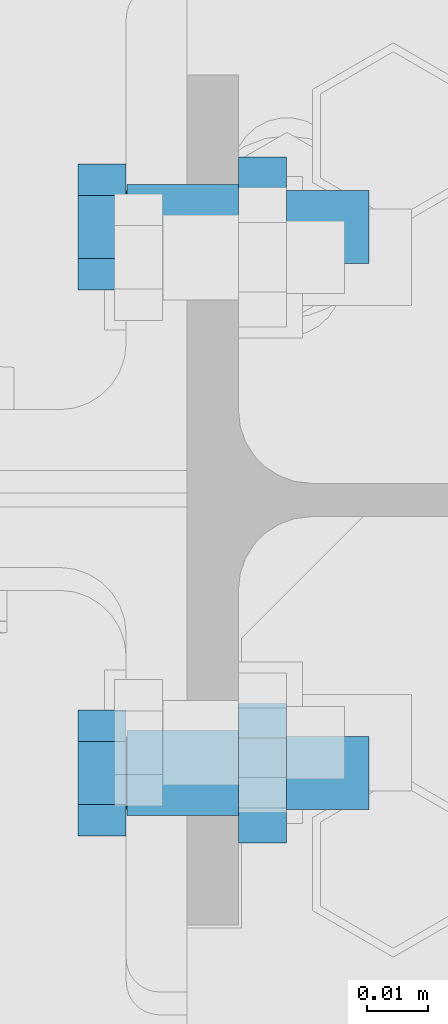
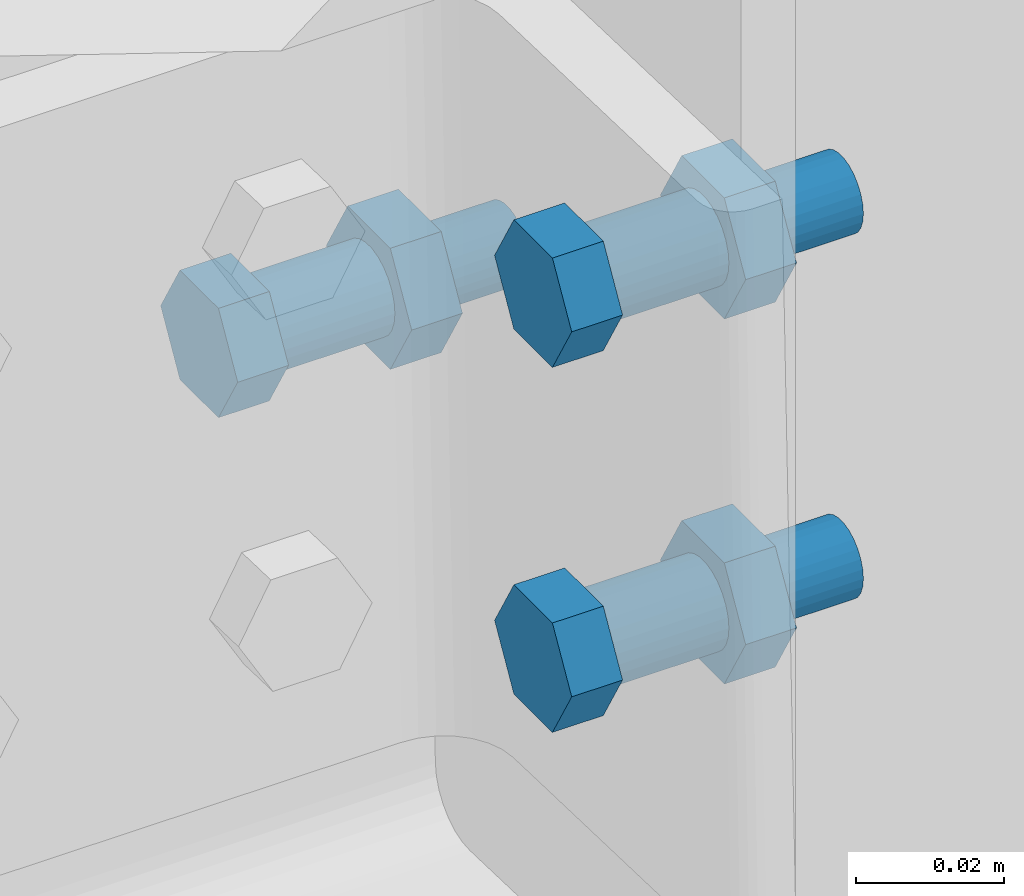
# One storey, part 289 of 362: 3 mechanical fasteners.
"""IFC2X3 building model written with IfcOpenShell, lengths in millimetres."""

import ifcopenshell
import ifcopenshell.guid

model = None  # the IFC model being written
_history = None  # IfcOwnerHistory: only IFC2X3 demands one
_inside = {}  # id of a spatial element -> (the spatial element, [elements in it])
_under = {}  # id of a project, library or spatial element -> (it, [spatial elements below it])
_declared = {}  # id of a project -> (the project, [libraries it declares])
_typed = {}  # id of a type object -> (the type object, [elements of that type])
_made_of = {}  # id of a material, layer set ... -> (it, [elements and type objects made of it])


def new_model(schema):
    """Start an empty IFC model of exactly this schema.

    Asked for "IFC4X3", IfcOpenShell would pick the latest addendum, in which some entities
    have other attributes; the version numbers below select the first issue.
    IFC2X3 requires an IfcOwnerHistory on every rooted entity: one is made here for all.
    """
    global model, _history
    if schema == "IFC4X3":
        model = ifcopenshell.file(schema_version=(4, 3, 0, 0))
    else:
        model = ifcopenshell.file(schema=schema)
    _inside.clear()
    _under.clear()
    _declared.clear()
    _typed.clear()
    _made_of.clear()
    _history = None
    if model.schema == "IFC2X3":
        org = make("IfcOrganization", Name="unknown")
        user = make(
            "IfcPersonAndOrganization",
            ThePerson=make("IfcPerson", FamilyName="unknown"),
            TheOrganization=org,
        )
        app = make(
            "IfcApplication",
            ApplicationDeveloper=org,
            Version="unknown",
            ApplicationFullName="unknown",
            ApplicationIdentifier="unknown",
        )
        _history = make(
            "IfcOwnerHistory",
            OwningUser=user,
            OwningApplication=app,
            ChangeAction="ADDED",
            CreationDate=0,
        )
    return model


def make(cls, **values):
    """One entity of the class cls with the attributes given. An attribute that is None is left unset."""
    return model.create_entity(
        cls, **{name: value for name, value in values.items() if value is not None}
    )


def rooted(cls, **values):
    """An entity with a GlobalId (a new one), such as an element, a storey or a relation."""
    return make(cls, GlobalId=ifcopenshell.guid.new(), OwnerHistory=_history, **values)


def si_unit(unit_type, name, prefix=None):
    """IfcSIUnit, for example si_unit("LENGTHUNIT", "METRE", prefix="MILLI")."""
    return make("IfcSIUnit", UnitType=unit_type, Prefix=prefix, Name=name)


def assignment(units):
    """IfcUnitAssignment: the units of a project."""
    return None if units is None else make("IfcUnitAssignment", Units=units)


def point(xyz):
    """IfcCartesianPoint."""
    return None if xyz is None else make("IfcCartesianPoint", Coordinates=xyz)


def direction(xyz):
    """IfcDirection."""
    return None if xyz is None else make("IfcDirection", DirectionRatios=xyz)


def frame(location, z_axis=None, x_axis=None):
    """IfcAxis2Placement3D, a coordinate frame: its origin and axes. An axis left out is left unset."""
    return make(
        "IfcAxis2Placement3D",
        Location=point(location),
        Axis=direction(z_axis),
        RefDirection=direction(x_axis),
    )


def frame_2d(location, x_axis=None):
    """IfcAxis2Placement2D, a coordinate frame in the plane: its origin and x axis."""
    return make(
        "IfcAxis2Placement2D", Location=point(location), RefDirection=direction(x_axis)
    )


def origin_with_axes():
    """The frame at (0, 0, 0) with the z axis (0, 0, 1) and the x axis (1, 0, 0) written out."""
    return frame((0.0, 0.0, 0.0), z_axis=(0.0, 0.0, 1.0), x_axis=(1.0, 0.0, 0.0))


def origin_2d_with_axis():
    """The frame at (0, 0) in the plane with the x axis (1, 0) written out."""
    return frame_2d((0.0, 0.0), x_axis=(1.0, 0.0))


def place(relative_to, where):
    """IfcLocalPlacement: puts the frame where relative to a parent placement (None: the world)."""
    return make(
        "IfcLocalPlacement", PlacementRelTo=relative_to, RelativePlacement=where
    )


def context(
    kind, dimensions, precision=None, world=None, true_north=None, identifier=None
):
    """IfcGeometricRepresentationContext, for example the 3D "Model" context."""
    return make(
        "IfcGeometricRepresentationContext",
        ContextIdentifier=identifier,
        ContextType=kind,
        CoordinateSpaceDimension=dimensions,
        Precision=precision,
        WorldCoordinateSystem=world,
        TrueNorth=true_north,
    )


def subcontext(parent, identifier, kind, view, scale=None):
    """IfcGeometricRepresentationSubContext, for example "Body" below "Model"."""
    return make(
        "IfcGeometricRepresentationSubContext",
        ContextIdentifier=identifier,
        ContextType=kind,
        ParentContext=parent,
        TargetScale=scale,
        TargetView=view,
    )


def project(units=None, contexts=None):
    """IfcProject with its units and contexts."""
    return rooted(
        "IfcProject",
        Name="project",
        RepresentationContexts=contexts,
        UnitsInContext=assignment(units),
    )


def spatial(cls, under=None, at=None, **own):
    """A site, building, storey or space (cls), placed at a placement, below another one or the project."""
    s = rooted(cls, ObjectPlacement=at, **own)
    if under is not None:
        _under.setdefault(under.id(), (under, []))[1].append(s)
    return s


def polyline(points):
    """IfcPolyline through the points."""
    return make("IfcPolyline", Points=[point(p) for p in points])


def profile(cls, at=None, kind="AREA", **sizes):
    """A parametric profile (cls). Its sizes go by their IFC names, for example OverallWidth=200.0."""
    return make(cls, ProfileType=kind, Position=at, **sizes)


def circle(**sizes):
    """IfcCircleProfileDef."""
    return profile("IfcCircleProfileDef", **sizes)


def outline(outer, holes=None, kind="AREA"):
    """IfcArbitraryClosedProfileDef: a profile drawn as a closed curve; with holes, ...WithVoids."""
    if holes is None:
        return make("IfcArbitraryClosedProfileDef", ProfileType=kind, OuterCurve=outer)
    return make(
        "IfcArbitraryProfileDefWithVoids",
        ProfileType=kind,
        OuterCurve=outer,
        InnerCurves=holes,
    )


def extrude(swept, where, along, depth):
    """IfcExtrudedAreaSolid: the profile swept, set in the frame where, extruded along a direction by depth."""
    return make(
        "IfcExtrudedAreaSolid",
        SweptArea=swept,
        Position=where,
        ExtrudedDirection=direction(along),
        Depth=depth,
    )


def shape(context_of_items, identifier, shape_type, items):
    """IfcShapeRepresentation: the items that make up one representation, for example the "Body"."""
    return make(
        "IfcShapeRepresentation",
        ContextOfItems=context_of_items,
        RepresentationIdentifier=identifier,
        RepresentationType=shape_type,
        Items=items,
    )


def source(mapping_origin, context_of_items, identifier, shape_type, items):
    """IfcRepresentationMap: a shape defined once, which mapped items show again and again."""
    return make(
        "IfcRepresentationMap",
        MappingOrigin=mapping_origin,
        MappedRepresentation=shape(context_of_items, identifier, shape_type, items),
    )


def transform(
    local_origin,
    x_axis=None,
    y_axis=None,
    z_axis=None,
    scale=None,
    scale2=None,
    scale3=None,
    uniform=True,
):
    """IfcCartesianTransformationOperator3D, or its non-uniform kind. x_axis, y_axis, z_axis: its Axis1, 2, 3."""
    if uniform:
        return make(
            "IfcCartesianTransformationOperator3D",
            Axis1=direction(x_axis),
            Axis2=direction(y_axis),
            LocalOrigin=point(local_origin),
            Scale=scale,
            Axis3=direction(z_axis),
        )
    return make(
        "IfcCartesianTransformationOperator3DnonUniform",
        Axis1=direction(x_axis),
        Axis2=direction(y_axis),
        LocalOrigin=point(local_origin),
        Scale=scale,
        Axis3=direction(z_axis),
        Scale2=scale2,
        Scale3=scale3,
    )


def mapped(mapping_source, mapping_target):
    """IfcMappedItem: shows the shape of a source again, moved by a transform."""
    return make(
        "IfcMappedItem", MappingSource=mapping_source, MappingTarget=mapping_target
    )


def material(Name=None, Category=None):
    """IfcMaterial."""
    return make("IfcMaterial", Name=Name, Category=Category)


def made_of(thing, what):
    """Note that an element or type object is made of a material, layer set ...; save() writes the relation."""
    if what is not None:
        _made_of.setdefault(what.id(), (what, []))[1].append(thing)
    return thing


def type_object(cls, material=None, **own):
    """A type object (cls), such as IfcWallType, which elements share."""
    return made_of(rooted(cls, **own), material)


def element(
    cls,
    number,
    at=None,
    inside=None,
    cuts=None,
    type_object=None,
    material=None,
    context=None,
    identifier="Body",
    shape_type=None,
    held_by="IfcProductDefinitionShape",
    body=None,
    shapes=None,
    **own,
):
    """One element of the class cls, such as IfcWall. Its Tag is "e" and its number.

    at: its placement. inside: the storey or other place that contains it. cuts: it is an
    opening in that element (IfcRelVoidsElement). A single representation is given by context,
    identifier, shape_type and body (its items); several are given by shapes. held_by: the class
    of the entity that holds the representations. save() writes the other relations.
    """
    e = rooted(cls, Tag="e%d" % number, ObjectPlacement=at, **own)
    if body is not None:
        shapes = [shape(context, identifier, shape_type, body)]
    if shapes is not None:
        e.Representation = make(held_by, Representations=shapes)
    if inside is not None:
        _inside.setdefault(inside.id(), (inside, []))[1].append(e)
    if cuts is not None:
        rooted(
            "IfcRelVoidsElement", RelatingBuildingElement=cuts, RelatedOpeningElement=e
        )
    if type_object is not None:
        _typed.setdefault(type_object.id(), (type_object, []))[1].append(e)
    return made_of(e, material)


def aggregate(whole, parts):
    """IfcRelAggregates: a whole, such as a stair, and the parts it consists of."""
    return rooted("IfcRelAggregates", RelatingObject=whole, RelatedObjects=parts)


def save(model, path):
    """Write the relations noted so far, then the file.

    IfcRelAggregates (storeys below a building ...), IfcRelContainedInSpatialStructure (elements
    in a storey), IfcRelDefinesByType, IfcRelAssociatesMaterial and IfcRelDeclares: one each for
    every whole, place, type object, material and project.
    """
    for whole, parts in _under.values():
        aggregate(whole, parts)
    for where, things in _inside.values():
        rooted(
            "IfcRelContainedInSpatialStructure",
            RelatedElements=things,
            RelatingStructure=where,
        )
    for kind, things in _typed.values():
        rooted("IfcRelDefinesByType", RelatedObjects=things, RelatingType=kind)
    for what, things in _made_of.values():
        rooted("IfcRelAssociatesMaterial", RelatedObjects=things, RelatingMaterial=what)
    for by, libraries in _declared.values():
        rooted("IfcRelDeclares", RelatingContext=by, RelatedDefinitions=libraries)
    model.write(path)


model = new_model("IFC2X3")

# Units and contexts
model_context = context("Model", 3, precision=1e-05, world=origin_with_axes())
body_context = subcontext(model_context, "Body", "Model", "MODEL_VIEW")
ifc_project = project(units=[si_unit("LENGTHUNIT", "METRE", prefix="MILLI"), si_unit("AREAUNIT", "SQUARE_METRE"), si_unit("VOLUMEUNIT", "CUBIC_METRE"), si_unit("MASSUNIT", "GRAM", prefix="KILO"), si_unit("TIMEUNIT", "SECOND"), si_unit("PLANEANGLEUNIT", "RADIAN"), si_unit("SOLIDANGLEUNIT", "STERADIAN"), si_unit("THERMODYNAMICTEMPERATUREUNIT", "DEGREE_CELSIUS"), si_unit("LUMINOUSINTENSITYUNIT", "LUMEN")], contexts=[model_context])

# Site, building, storey
site_placement = place(None, origin_with_axes())
site = spatial("IfcSite", under=ifc_project, at=site_placement, Name="Undefined", CompositionType="ELEMENT")
building_placement = place(site_placement, origin_with_axes())
building = spatial("IfcBuilding", under=site, at=building_placement, Name="Undefined", CompositionType="ELEMENT")
storey_placement = place(building_placement, origin_with_axes())
storey = spatial("IfcBuildingStorey", under=building, at=storey_placement, Name="Undefined", CompositionType="ELEMENT", Elevation=0.0)

# Mechanical fasteners
ifc_material = material(Name="8.8-SB-ZINGUE")
mechanical_fastener_type = type_object("IfcMechanicalFastenerType", Name="Bolt assembly")
shared_shape = source(origin_with_axes(), body_context, "Body", "SweptSolid", [
    extrude(circle(Radius=7.0, at=origin_2d_with_axis()), frame((0.0, -0.100011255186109, 0.0), z_axis=(0.0, 1.0, 0.0), x_axis=(1.0, 0.0, 0.0)), (0.0, 0.0, 1.0), 8.6),
    extrude(circle(Radius=7.0, at=origin_2d_with_axis()), frame((0.0, -9.9, 0.0), z_axis=(0.0, 1.0, 0.0), x_axis=(1.0, 0.0, 0.0)), (0.0, 0.0, 1.0), 10.0),
    extrude(outline(polyline([(10.39230484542, 0.0), (5.19615242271, 9.00000000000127), (-5.19615242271, 9.00000000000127), (-10.39230484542, 0.0), (-5.19615242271, -9.00000000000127), (5.19615242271, -9.00000000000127), (10.39230484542, 0.0)])), frame((0.0, -17.92, 0.0), z_axis=(0.0, 1.0, 0.0), x_axis=(1.0, 0.0, 0.0)), (0.0, 0.0, 1.0), 7.92),
    extrude(circle(Radius=6.0, at=origin_2d_with_axis()), frame((0.0, -10.0000010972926, 0.0), z_axis=(0.0, 1.0, 0.0), x_axis=(1.0, 0.0, 0.0)), (0.0, 0.0, 1.0), 40.0),
    extrude(outline(polyline([(11.5008173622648, 0.0), (5.7504086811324, 9.96000000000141), (-5.7504086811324, 9.96000000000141), (-11.5008173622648, 0.0), (-5.7504086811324, -9.96000000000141), (5.7504086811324, -9.96000000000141), (11.5008173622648, 0.0)])), frame((0.0, 8.49999994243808, 0.0), z_axis=(0.0, 1.0, 0.0), x_axis=(1.0, 0.0, 0.0)), (0.0, 0.0, 1.0), 7.92),
])
for number, where, z_axis, x_axis, name in (
    (1, (23403.5000013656, 15245.0000542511, 7450.84724297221), (0.0, 0.0, -1.0), (0.0, 1.0, 0.0), "Bolt assembly"),
    (2, (23403.5000013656, 15155.0000542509, 7453.67564828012), (0.0, 0.0, 1.0), (0.0, -1.0, 0.0), "Bolt assembly"),
    (3, (23403.5000013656, 15155.0000542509, 7513.70527014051), (0.0, 0.0, 1.0), (0.0, -1.0, 0.0), "Bolt assembly"),
):
    element("IfcMechanicalFastener", number, at=place(storey_placement, frame(where, z_axis=z_axis, x_axis=x_axis)), inside=storey, type_object=mechanical_fastener_type, material=ifc_material, Name=name, NominalDiameter=12.0, NominalLength=40.0, context=body_context, shape_type="MappedRepresentation", body=[
        mapped(shared_shape, transform((0.0, 0.0, 0.0))),
    ])

save(model, "model.ifc")
